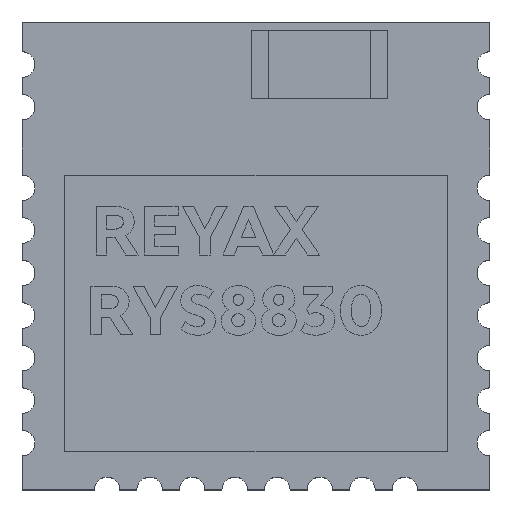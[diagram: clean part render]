
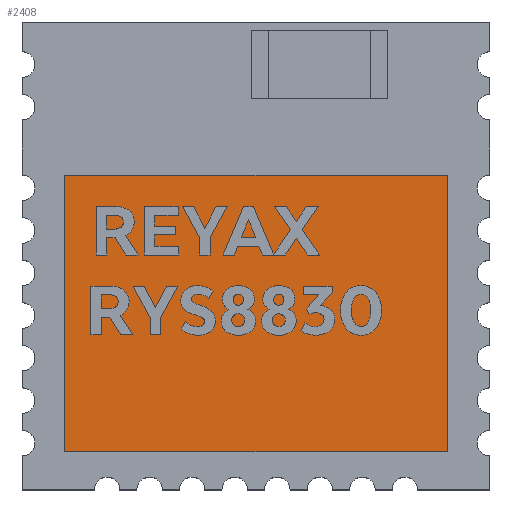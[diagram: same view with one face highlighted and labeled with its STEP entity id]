
A CAD part, top view. The second image highlights one B-rep face of the part: STEP entity #2408.
In plain terms, the highlighted planar face has unit normal (0, 0, 1).
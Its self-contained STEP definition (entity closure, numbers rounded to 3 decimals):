
#2317 = VERTEX_POINT('',#2318);
#2318 = CARTESIAN_POINT('',(-4.5,-4.6,2.2));
#2324 = EDGE_CURVE('',#2317,#2325,#2327,.T.);
#2325 = VERTEX_POINT('',#2326);
#2326 = CARTESIAN_POINT('',(-4.5,1.9,2.2));
#2327 = LINE('',#2328,#2329);
#2328 = CARTESIAN_POINT('',(-4.5,-4.6,2.2));
#2329 = VECTOR('',#2330,1.);
#2330 = DIRECTION('',(0.,1.,0.));
#2348 = VERTEX_POINT('',#2349);
#2349 = CARTESIAN_POINT('',(4.5,-4.6,2.2));
#2355 = EDGE_CURVE('',#2348,#2317,#2356,.T.);
#2356 = LINE('',#2357,#2358);
#2357 = CARTESIAN_POINT('',(4.5,-4.6,2.2));
#2358 = VECTOR('',#2359,1.);
#2359 = DIRECTION('',(-1.,0.,0.));
#2372 = VERTEX_POINT('',#2373);
#2373 = CARTESIAN_POINT('',(4.5,1.9,2.2));
#2379 = EDGE_CURVE('',#2372,#2348,#2380,.T.);
#2380 = LINE('',#2381,#2382);
#2381 = CARTESIAN_POINT('',(4.5,1.9,2.2));
#2382 = VECTOR('',#2383,1.);
#2383 = DIRECTION('',(0.,-1.,0.));
#2396 = EDGE_CURVE('',#2325,#2372,#2397,.T.);
#2397 = LINE('',#2398,#2399);
#2398 = CARTESIAN_POINT('',(-4.5,1.9,2.2));
#2399 = VECTOR('',#2400,1.);
#2400 = DIRECTION('',(1.,0.,0.));
#2408 = ADVANCED_FACE('',(#2409),#2415,.T.);
#2409 = FACE_BOUND('',#2410,.F.);
#2410 = EDGE_LOOP('',(#2411,#2412,#2413,#2414));
#2411 = ORIENTED_EDGE('',*,*,#2396,.T.);
#2412 = ORIENTED_EDGE('',*,*,#2379,.T.);
#2413 = ORIENTED_EDGE('',*,*,#2355,.T.);
#2414 = ORIENTED_EDGE('',*,*,#2324,.T.);
#2415 = PLANE('',#2416);
#2416 = AXIS2_PLACEMENT_3D('',#2417,#2418,#2419);
#2417 = CARTESIAN_POINT('',(0.,-1.35,2.2));
#2418 = DIRECTION('',(0.,-0.,1.));
#2419 = DIRECTION('',(0.,1.,0.));
